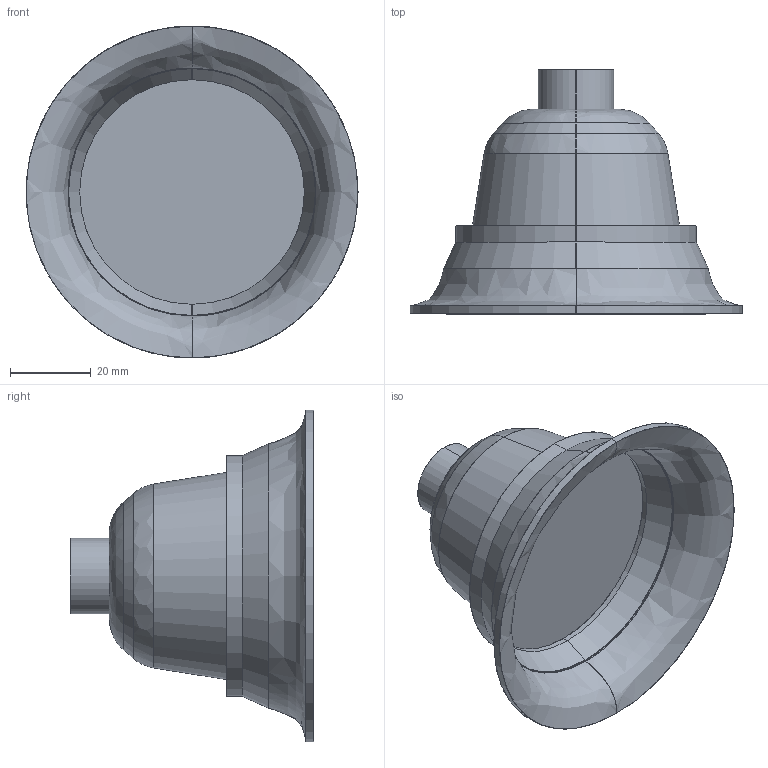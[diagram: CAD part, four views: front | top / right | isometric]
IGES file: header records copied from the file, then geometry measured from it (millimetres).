
Start section: SolidWorks IGES file using analytic representation for surfaces
Global section: file name: D:\3DS EMPRESA\WINKA-P3557-3D\WINKA-P3557-3D.IGS; native system: SolidWorks 2019; preprocessor: SolidWorks 2019; author: Carlos Corella; date: 210722.124426; units: millimetre
Bounding box: 82.1 x 60.3 x 82.1 mm (x, y, z)
Surface area: 26595.2 mm2 (no closed solid volume)
Topology: 0 solids, 0 shells, 44 faces, 720 edges, 720 vertices
Faces by surface type: revolution 24, bspline 20
